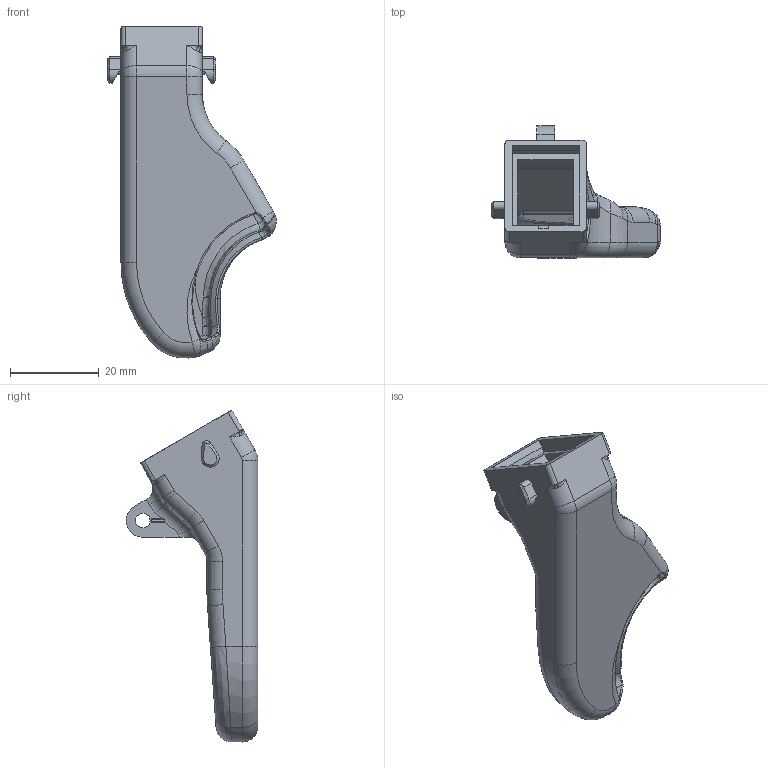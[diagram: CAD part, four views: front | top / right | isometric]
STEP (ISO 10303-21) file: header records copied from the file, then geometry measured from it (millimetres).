
FILE_DESCRIPTION(('CATIA V5 STEP Exchange'),'2;1');
FILE_NAME('E:\Dropbox\3D Printer Fan Duct Designs\1.) Artillery Sidewinder X1\3D Models\5015 Double Ducts\HEMERA MATRIX\Hemera ALL Step Files\LH 5015 Duct.stp','2022-01-08T18:44:15+00:00',('none'),('none'),'CATIA Version 5 Release 20 SP 1 (IN-10)','CATIA V5 STEP AP214','none');
FILE_SCHEMA(('AUTOMOTIVE_DESIGN { 1 0 10303 214 1 1 1 1 }'));
Length unit declared in the file: millimetre
Products named in the file (1): DUCT_DOPPIA_5015_SX_HEMERA_MATRIX
Bounding box: 38.09 x 29.75 x 74.98 mm (x, y, z)
Volume: 9412.1 mm3; surface area: 9379.2 mm2
Topology: 1 solids, 1 shells, 322 faces, 809 edges, 474 vertices
Faces by surface type: bspline 120, cylinder 81, plane 65, torus 36, cone 10, sphere 10
Entity records: 16960 total; most frequent: CARTESIAN_POINT 9859, ORIENTED_EDGE 1584, EDGE_CURVE 792, DIRECTION 776, VERTEX_POINT 474, B_SPLINE_CURVE_WITH_KNOTS 394, AXIS2_PLACEMENT_3D 362, EDGE_LOOP 328
